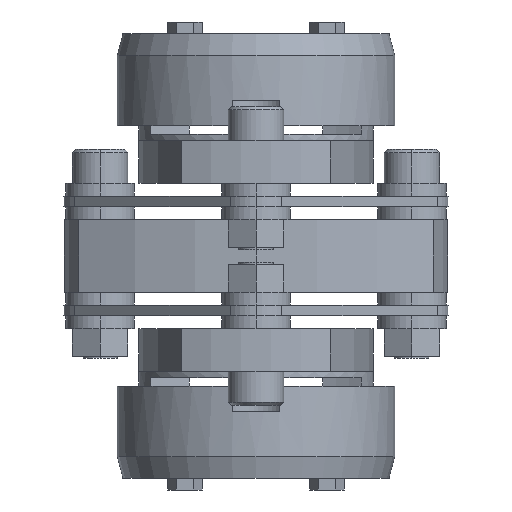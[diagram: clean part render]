
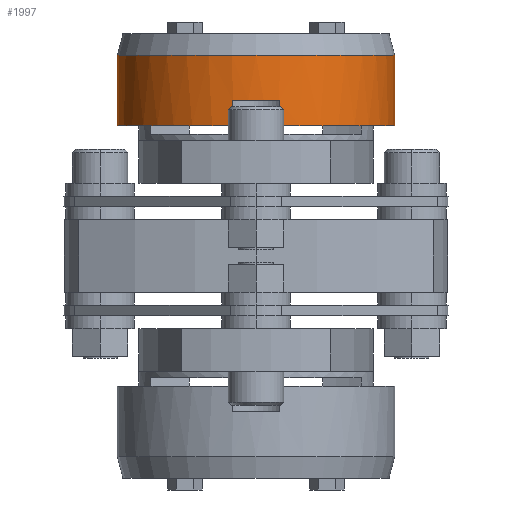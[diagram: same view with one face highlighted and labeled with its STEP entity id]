
A CAD part, left-side view. The second image highlights one B-rep face of the part: STEP entity #1997.
In plain terms, the highlighted cylindrical face has radius 32.5 mm (diameter 65 mm), a partial arc.
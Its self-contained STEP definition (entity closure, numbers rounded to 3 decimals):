
#1825=CARTESIAN_POINT('',(0.,-32.5,47.0));
#1826=VERTEX_POINT('',#1825);
#1842=CARTESIAN_POINT('',(0.,32.5,47.0));
#1843=VERTEX_POINT('',#1842);
#1850=CARTESIAN_POINT('',(0.,0.,47.0));
#1851=DIRECTION('',(0.0,0.0,1.0));
#1852=DIRECTION('',(0.0,-1.0,0.0));
#1853=AXIS2_PLACEMENT_3D('',#1850,#1851,#1852);
#1854=CIRCLE('',#1853,32.5);
#1855=EDGE_CURVE('',#1843,#1826,#1854,.T.);
#1932=CARTESIAN_POINT('',(0.,0.,30.5));
#1933=DIRECTION('',(0.0,0.0,1.0));
#1934=DIRECTION('',(0.0,1.0,0.0));
#1935=AXIS2_PLACEMENT_3D('',#1932,#1933,#1934);
#1936=CYLINDRICAL_SURFACE('',#1935,32.5);
#1937=CARTESIAN_POINT('',(0.,32.5,30.5));
#1938=VERTEX_POINT('',#1937);
#1939=CARTESIAN_POINT('',(0.,32.5,30.5));
#1940=DIRECTION('',(0.0,0.0,1.0));
#1941=VECTOR('',#1940,16.5);
#1942=LINE('',#1939,#1941);
#1943=EDGE_CURVE('',#1938,#1843,#1942,.T.);
#1944=ORIENTED_EDGE('',*,*,#1943,.F.);
#1945=CARTESIAN_POINT('',(-32.048,5.402,30.5));
#1946=VERTEX_POINT('',#1945);
#1947=CARTESIAN_POINT('',(0.,0.,30.5));
#1948=DIRECTION('',(0.0,0.0,1.0));
#1949=DIRECTION('',(0.0,1.0,0.0));
#1950=AXIS2_PLACEMENT_3D('',#1947,#1948,#1949);
#1951=CIRCLE('',#1950,32.5);
#1952=EDGE_CURVE('',#1938,#1946,#1951,.T.);
#1953=ORIENTED_EDGE('',*,*,#1952,.T.);
#1954=CARTESIAN_POINT('',(-32.048,5.402,36.5));
#1955=VERTEX_POINT('',#1954);
#1956=CARTESIAN_POINT('',(-32.048,5.402,30.5));
#1957=DIRECTION('',(0.0,0.0,1.0));
#1958=VECTOR('',#1957,6.0);
#1959=LINE('',#1956,#1958);
#1960=EDGE_CURVE('',#1946,#1955,#1959,.T.);
#1961=ORIENTED_EDGE('',*,*,#1960,.T.);
#1962=CARTESIAN_POINT('',(-32.048,-5.402,36.5));
#1963=VERTEX_POINT('',#1962);
#1964=CARTESIAN_POINT('',(0.,0.,36.5));
#1965=DIRECTION('',(0.0,0.0,1.0));
#1966=DIRECTION('',(0.0,1.0,0.0));
#1967=AXIS2_PLACEMENT_3D('',#1964,#1965,#1966);
#1968=CIRCLE('',#1967,32.5);
#1969=EDGE_CURVE('',#1955,#1963,#1968,.T.);
#1970=ORIENTED_EDGE('',*,*,#1969,.T.);
#1971=CARTESIAN_POINT('',(-32.048,-5.402,30.5));
#1972=VERTEX_POINT('',#1971);
#1973=CARTESIAN_POINT('',(-32.048,-5.402,36.5));
#1974=DIRECTION('',(0.0,0.0,-1.0));
#1975=VECTOR('',#1974,6.0);
#1976=LINE('',#1973,#1975);
#1977=EDGE_CURVE('',#1963,#1972,#1976,.T.);
#1978=ORIENTED_EDGE('',*,*,#1977,.T.);
#1979=CARTESIAN_POINT('',(0.,-32.5,30.5));
#1980=VERTEX_POINT('',#1979);
#1981=CARTESIAN_POINT('',(0.,0.,30.5));
#1982=DIRECTION('',(0.0,0.0,1.0));
#1983=DIRECTION('',(0.0,1.0,0.0));
#1984=AXIS2_PLACEMENT_3D('',#1981,#1982,#1983);
#1985=CIRCLE('',#1984,32.5);
#1986=EDGE_CURVE('',#1972,#1980,#1985,.T.);
#1987=ORIENTED_EDGE('',*,*,#1986,.T.);
#1988=CARTESIAN_POINT('',(0.,-32.5,47.0));
#1989=DIRECTION('',(0.0,0.0,-1.0));
#1990=VECTOR('',#1989,16.5);
#1991=LINE('',#1988,#1990);
#1992=EDGE_CURVE('',#1826,#1980,#1991,.T.);
#1993=ORIENTED_EDGE('',*,*,#1992,.F.);
#1994=ORIENTED_EDGE('',*,*,#1855,.F.);
#1995=EDGE_LOOP('',(#1944,#1953,#1961,#1970,#1978,#1987,#1993,#1994));
#1996=FACE_OUTER_BOUND('',#1995,.T.);
#1997=ADVANCED_FACE('',(#1996),#1936,.T.);
